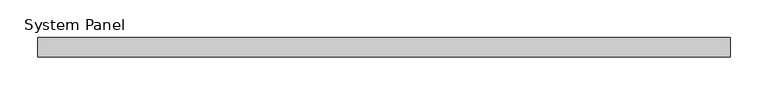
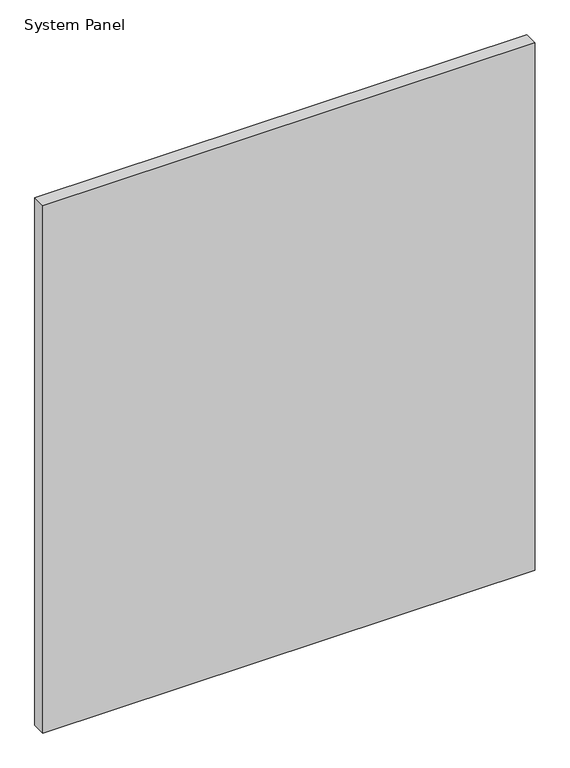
"""IFC4 building model written with IfcOpenShell, lengths in millimetres: plate geometry, System Panel : Glazed - ACMP (AL-1)."""

from ifc_helpers import new_model, si_unit, origin, origin_with_axes, place, context, project, spatial, polyline, outline, extrude, source, transform, mapped, element, save


def system_panel_ce887cf1(model_context):
    return source(origin(), model_context, "Body", "SweptSolid", [
        extrude(outline(polyline([(457.2, 0.0), (-457.2, 0.0), (-457.2, 25.4), (457.2, 25.4), (457.2, 0.0)])), origin_with_axes(), (0.0, 0.0, 1.0), 1035.0500024),
    ])


if __name__ == "__main__":
    model = new_model("IFC4")
    model_context = context("Model", 3, world=origin())
    ifc_project = project(units=[si_unit("LENGTHUNIT", "METRE", prefix="MILLI")], contexts=[model_context])
    site = spatial("IfcSite", under=ifc_project)
    building = spatial("IfcBuilding", under=site)
    placement = place(None, origin())
    system_panel_shape = system_panel_ce887cf1(model_context)
    element("IfcPlate", 1, ObjectType="System Panel : Glazed - ACMP (AL-1)", at=placement, inside=building, context=model_context, shape_type="MappedRepresentation", body=[
        mapped(system_panel_shape, transform((0.0, 0.0, 0.0), x_axis=(1.0, 0.0, 0.0), y_axis=(0.0, 1.0, 0.0), z_axis=(0.0, 0.0, 1.0))),
    ])
    save(model, "model.ifc")
